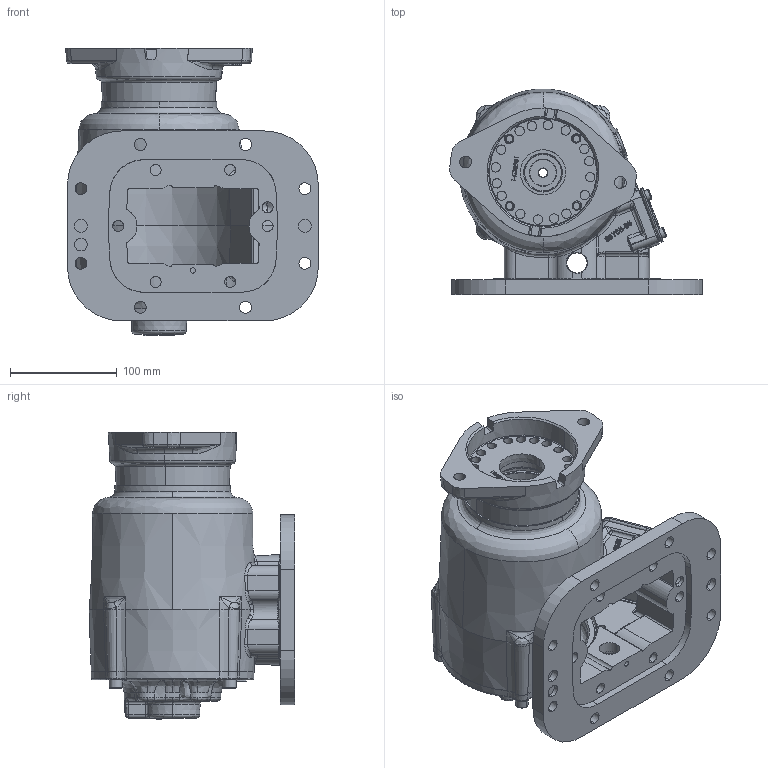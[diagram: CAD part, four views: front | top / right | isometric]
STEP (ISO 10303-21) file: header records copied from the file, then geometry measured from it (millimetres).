
FILE_DESCRIPTION (( 'STEP AP203' ), '1' );
FILE_NAME ('CS8S-XXXXX-E36X.STEP', '2023-05-03T18:17:10', ( '' ), ( '' ), 'SwSTEP 2.0', 'SolidWorks 2021', '' );
FILE_SCHEMA (( 'CONFIG_CONTROL_DESIGN' ));
Length unit declared in the file: inch
Products named in the file (8): 16T41119; 14T38981; CS8S-XXXXX-E36X; 14TA4819_Config1; 19T35237; 01t37075a; 19T41118; 15T36717
Assembly tree (13 placements, depth 3):
  CS8S-XXXXX-E36X
    01t37075a
    15T36717
    16T41119
    19T41118  x4
    19T35237  x4
    14TA4819_Config1
      14T38981
Bounding box: 236.45 x 192.11 x 268.87 mm (x, y, z)
Volume: 1619354.1 mm3; surface area: 443543.5 mm2
Topology: 12 solids, 12 shells, 2256 faces, 5881 edges, 3729 vertices
Faces by surface type: bspline 1023, plane 552, cylinder 449, cone 209, torus 23
Entity records: 161872 total; most frequent: CARTESIAN_POINT 116379, ORIENTED_EDGE 11058, DIRECTION 5994, EDGE_CURVE 5529, VERTEX_POINT 3543, B_SPLINE_CURVE_WITH_KNOTS 2531, EDGE_LOOP 2382, FACE_OUTER_BOUND 2124
